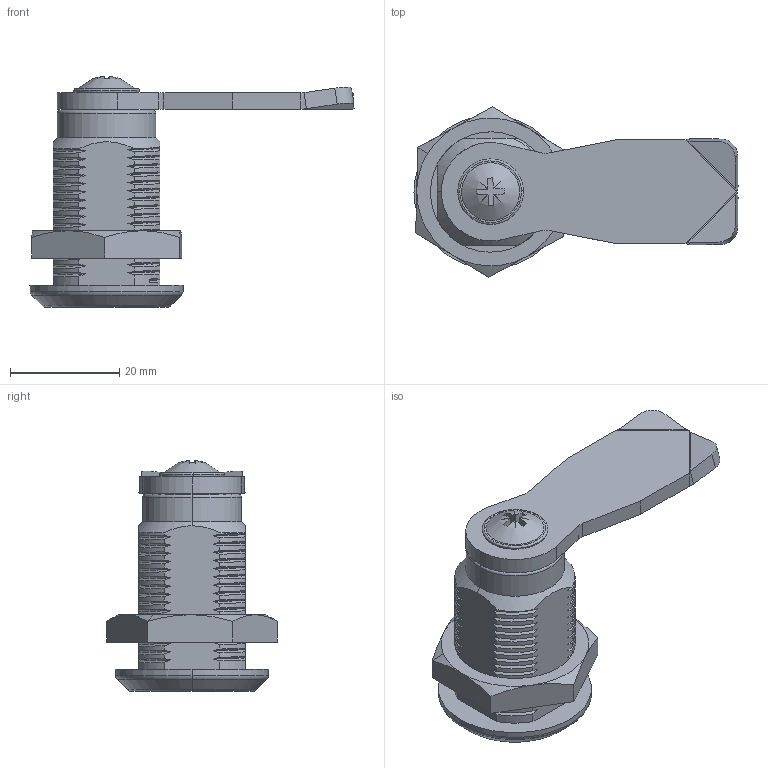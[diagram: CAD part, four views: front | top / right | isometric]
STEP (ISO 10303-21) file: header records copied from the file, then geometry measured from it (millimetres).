
FILE_DESCRIPTION (( 'STEP AP214' ), '1' );
FILE_NAME ('M22W-32.STEP', '2013-02-27T06:22:38', ( 'lukasz' ), ( 'ATC' ), 'SwSTEP 2.0', 'SolidWorks 2010', '' );
FILE_SCHEMA (( 'AUTOMOTIVE_DESIGN' ));
Length unit declared in the file: millimetre
Products named in the file (8): Korpus zamka M22W-32_Izometryczny; Wk³adka patentowa 1333; RST 22WE 04050440-1-02-1333_A; 1C.J100.18.45; Wkrêt M6 x 14; 2.M22.06.01.00; O-RING 9,1x1,6; M22W-32
Assembly tree (7 placements, depth 2):
  M22W-32
    1C.J100.18.45
    RST 22WE 04050440-1-02-1333_A
    Korpus zamka M22W-32_Izometryczny
    2.M22.06.01.00
    Wkrêt M6 x 14
    Wk³adka patentowa 1333
    O-RING 9,1x1,6
Bounding box: 59.19 x 31.17 x 42.16 mm (x, y, z)
Volume: 15237.1 mm3; surface area: 12666.8 mm2
Topology: 7 solids, 7 shells, 533 faces, 1438 edges, 934 vertices
Faces by surface type: plane 219, bspline 144, cylinder 122, cone 31, torus 17
Entity records: 20374 total; most frequent: CARTESIAN_POINT 7823, ORIENTED_EDGE 2876, DIRECTION 1945, EDGE_CURVE 1438, VERTEX_POINT 934, AXIS2_PLACEMENT_3D 650, LINE 645, VECTOR 645
